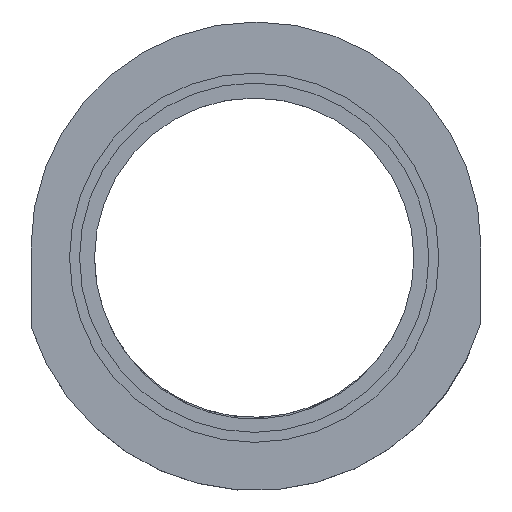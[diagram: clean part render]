
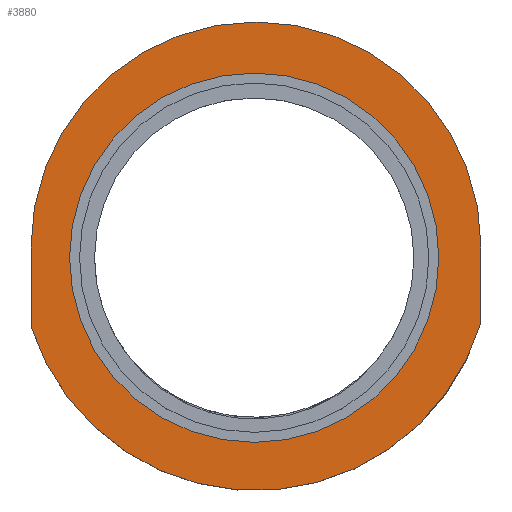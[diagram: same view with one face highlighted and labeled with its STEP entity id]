
A CAD part, top view. The second image highlights one B-rep face of the part: STEP entity #3880.
In plain terms, the highlighted planar face has unit normal (0, 0, 1).
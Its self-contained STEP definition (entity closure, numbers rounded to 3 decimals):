
#3212 = VERTEX_POINT('',#3213);
#3213 = CARTESIAN_POINT('',(17.64,-2.337,1.5));
#3220 = CYLINDRICAL_SURFACE('',#3221,18.5);
#3221 = AXIS2_PLACEMENT_3D('',#3222,#3223,#3224);
#3222 = CARTESIAN_POINT('',(-0.86,-2.337,1.2));
#3223 = DIRECTION('',(-0.,-0.,1.));
#3224 = DIRECTION('',(1.,0.,0.));
#3232 = CYLINDRICAL_SURFACE('',#3233,18.5);
#3233 = AXIS2_PLACEMENT_3D('',#3234,#3235,#3236);
#3234 = CARTESIAN_POINT('',(-0.86,-2.337,1.2));
#3235 = DIRECTION('',(-0.,-0.,1.));
#3236 = DIRECTION('',(1.,0.,0.));
#3244 = EDGE_CURVE('',#3245,#3212,#3247,.T.);
#3245 = VERTEX_POINT('',#3246);
#3246 = CARTESIAN_POINT('',(-19.36,-2.337,1.5));
#3247 = SURFACE_CURVE('',#3248,(#3253,#3260),.PCURVE_S1.);
#3248 = CIRCLE('',#3249,18.5);
#3249 = AXIS2_PLACEMENT_3D('',#3250,#3251,#3252);
#3250 = CARTESIAN_POINT('',(-0.86,-2.337,1.5));
#3251 = DIRECTION('',(0.,0.,1.));
#3252 = DIRECTION('',(1.,0.,-0.));
#3253 = PCURVE('',#3220,#3254);
#3254 = DEFINITIONAL_REPRESENTATION('',(#3255),#3259);
#3255 = LINE('',#3256,#3257);
#3256 = CARTESIAN_POINT('',(0.,0.3));
#3257 = VECTOR('',#3258,1.);
#3258 = DIRECTION('',(1.,0.));
#3259 = ( GEOMETRIC_REPRESENTATION_CONTEXT(2) 
PARAMETRIC_REPRESENTATION_CONTEXT() REPRESENTATION_CONTEXT('2D SPACE',''
  ) );
#3260 = PCURVE('',#3261,#3266);
#3261 = PLANE('',#3262);
#3262 = AXIS2_PLACEMENT_3D('',#3263,#3264,#3265);
#3263 = CARTESIAN_POINT('',(-0.68,-1.263,1.5));
#3264 = DIRECTION('',(-0.,0.,-1.));
#3265 = DIRECTION('',(-1.,0.,0.));
#3266 = DEFINITIONAL_REPRESENTATION('',(#3267),#3275);
#3267 = ( BOUNDED_CURVE() B_SPLINE_CURVE(2,(#3268,#3269,#3270,#3271,
#3272,#3273,#3274),.UNSPECIFIED.,.T.,.F.) B_SPLINE_CURVE_WITH_KNOTS((1,2
    ,2,2,2,1),(-2.094,0.,2.094,4.189,
6.283,8.378),.UNSPECIFIED.) CURVE() 
GEOMETRIC_REPRESENTATION_ITEM() RATIONAL_B_SPLINE_CURVE((1.,0.5,1.,0.5,
1.,0.5,1.)) REPRESENTATION_ITEM('') );
#3268 = CARTESIAN_POINT('',(-18.32,-1.075));
#3269 = CARTESIAN_POINT('',(-18.32,30.968));
#3270 = CARTESIAN_POINT('',(9.43,14.947));
#3271 = CARTESIAN_POINT('',(37.18,-1.075));
#3272 = CARTESIAN_POINT('',(9.43,-17.096));
#3273 = CARTESIAN_POINT('',(-18.32,-33.118));
#3274 = CARTESIAN_POINT('',(-18.32,-1.075));
#3275 = ( GEOMETRIC_REPRESENTATION_CONTEXT(2) 
PARAMETRIC_REPRESENTATION_CONTEXT() REPRESENTATION_CONTEXT('2D SPACE',''
  ) );
#3698 = PLANE('',#3699);
#3699 = AXIS2_PLACEMENT_3D('',#3700,#3701,#3702);
#3700 = CARTESIAN_POINT('',(-23.221,-1.263,1.5));
#3701 = DIRECTION('',(1.,0.,-0.));
#3702 = DIRECTION('',(-0.,0.,-1.));
#3723 = VERTEX_POINT('',#3724);
#3724 = CARTESIAN_POINT('',(-23.221,-9.246,1.5));
#3738 = CYLINDRICAL_SURFACE('',#3739,23.601);
#3739 = AXIS2_PLACEMENT_3D('',#3740,#3741,#3742);
#3740 = CARTESIAN_POINT('',(-0.739,-2.065,1.5));
#3741 = DIRECTION('',(-0.,-0.,-1.));
#3742 = DIRECTION('',(-1.,0.,0.));
#3750 = EDGE_CURVE('',#3751,#3723,#3753,.T.);
#3751 = VERTEX_POINT('',#3752);
#3752 = CARTESIAN_POINT('',(-23.221,-1.263,1.5));
#3753 = SURFACE_CURVE('',#3754,(#3758,#3765),.PCURVE_S1.);
#3754 = LINE('',#3755,#3756);
#3755 = CARTESIAN_POINT('',(-23.221,-1.263,1.5));
#3756 = VECTOR('',#3757,1.);
#3757 = DIRECTION('',(0.,-1.,0.));
#3758 = PCURVE('',#3698,#3759);
#3759 = DEFINITIONAL_REPRESENTATION('',(#3760),#3764);
#3760 = LINE('',#3761,#3762);
#3761 = CARTESIAN_POINT('',(0.,0.));
#3762 = VECTOR('',#3763,1.);
#3763 = DIRECTION('',(-0.,-1.));
#3764 = ( GEOMETRIC_REPRESENTATION_CONTEXT(2) 
PARAMETRIC_REPRESENTATION_CONTEXT() REPRESENTATION_CONTEXT('2D SPACE',''
  ) );
#3765 = PCURVE('',#3261,#3766);
#3766 = DEFINITIONAL_REPRESENTATION('',(#3767),#3771);
#3767 = LINE('',#3768,#3769);
#3768 = CARTESIAN_POINT('',(22.541,0.));
#3769 = VECTOR('',#3770,1.);
#3770 = DIRECTION('',(0.,-1.));
#3771 = ( GEOMETRIC_REPRESENTATION_CONTEXT(2) 
PARAMETRIC_REPRESENTATION_CONTEXT() REPRESENTATION_CONTEXT('2D SPACE',''
  ) );
#3787 = CYLINDRICAL_SURFACE('',#3788,22.541);
#3788 = AXIS2_PLACEMENT_3D('',#3789,#3790,#3791);
#3789 = CARTESIAN_POINT('',(-0.68,-1.263,1.5));
#3790 = DIRECTION('',(-0.,-0.,-1.));
#3791 = DIRECTION('',(-1.,0.,0.));
#3827 = VERTEX_POINT('',#3828);
#3828 = CARTESIAN_POINT('',(21.861,-8.862,1.5));
#3842 = PLANE('',#3843);
#3843 = AXIS2_PLACEMENT_3D('',#3844,#3845,#3846);
#3844 = CARTESIAN_POINT('',(21.861,-1.263,1.5));
#3845 = DIRECTION('',(-1.,0.,0.));
#3846 = DIRECTION('',(0.,0.,1.));
#3854 = EDGE_CURVE('',#3723,#3827,#3855,.T.);
#3855 = SURFACE_CURVE('',#3856,(#3861,#3868),.PCURVE_S1.);
#3856 = CIRCLE('',#3857,23.601);
#3857 = AXIS2_PLACEMENT_3D('',#3858,#3859,#3860);
#3858 = CARTESIAN_POINT('',(-0.739,-2.065,1.5));
#3859 = DIRECTION('',(0.,0.,1.));
#3860 = DIRECTION('',(1.,0.,-0.));
#3861 = PCURVE('',#3738,#3862);
#3862 = DEFINITIONAL_REPRESENTATION('',(#3863),#3867);
#3863 = LINE('',#3864,#3865);
#3864 = CARTESIAN_POINT('',(9.425,0.));
#3865 = VECTOR('',#3866,1.);
#3866 = DIRECTION('',(-1.,0.));
#3867 = ( GEOMETRIC_REPRESENTATION_CONTEXT(2) 
PARAMETRIC_REPRESENTATION_CONTEXT() REPRESENTATION_CONTEXT('2D SPACE',''
  ) );
#3868 = PCURVE('',#3261,#3869);
#3869 = DEFINITIONAL_REPRESENTATION('',(#3870),#3878);
#3870 = ( BOUNDED_CURVE() B_SPLINE_CURVE(2,(#3871,#3872,#3873,#3874,
#3875,#3876,#3877),.UNSPECIFIED.,.T.,.F.) B_SPLINE_CURVE_WITH_KNOTS((1,2
    ,2,2,2,1),(-2.094,0.,2.094,4.189,
6.283,8.378),.UNSPECIFIED.) CURVE() 
GEOMETRIC_REPRESENTATION_ITEM() RATIONAL_B_SPLINE_CURVE((1.,0.5,1.,0.5,
1.,0.5,1.)) REPRESENTATION_ITEM('') );
#3871 = CARTESIAN_POINT('',(-23.541,-0.802));
#3872 = CARTESIAN_POINT('',(-23.541,40.075));
#3873 = CARTESIAN_POINT('',(11.86,19.636));
#3874 = CARTESIAN_POINT('',(47.261,-0.802));
#3875 = CARTESIAN_POINT('',(11.86,-21.241));
#3876 = CARTESIAN_POINT('',(-23.541,-41.68));
#3877 = CARTESIAN_POINT('',(-23.541,-0.802));
#3878 = ( GEOMETRIC_REPRESENTATION_CONTEXT(2) 
PARAMETRIC_REPRESENTATION_CONTEXT() REPRESENTATION_CONTEXT('2D SPACE',''
  ) );
#3880 = ADVANCED_FACE('',(#3881,#3910),#3261,.F.);
#3881 = FACE_BOUND('',#3882,.T.);
#3882 = EDGE_LOOP('',(#3883,#3909));
#3883 = ORIENTED_EDGE('',*,*,#3884,.F.);
#3884 = EDGE_CURVE('',#3212,#3245,#3885,.T.);
#3885 = SURFACE_CURVE('',#3886,(#3891,#3902),.PCURVE_S1.);
#3886 = CIRCLE('',#3887,18.5);
#3887 = AXIS2_PLACEMENT_3D('',#3888,#3889,#3890);
#3888 = CARTESIAN_POINT('',(-0.86,-2.337,1.5));
#3889 = DIRECTION('',(0.,0.,1.));
#3890 = DIRECTION('',(1.,0.,-0.));
#3891 = PCURVE('',#3261,#3892);
#3892 = DEFINITIONAL_REPRESENTATION('',(#3893),#3901);
#3893 = ( BOUNDED_CURVE() B_SPLINE_CURVE(2,(#3894,#3895,#3896,#3897,
#3898,#3899,#3900),.UNSPECIFIED.,.T.,.F.) B_SPLINE_CURVE_WITH_KNOTS((1,2
    ,2,2,2,1),(-2.094,0.,2.094,4.189,
6.283,8.378),.UNSPECIFIED.) CURVE() 
GEOMETRIC_REPRESENTATION_ITEM() RATIONAL_B_SPLINE_CURVE((1.,0.5,1.,0.5,
1.,0.5,1.)) REPRESENTATION_ITEM('') );
#3894 = CARTESIAN_POINT('',(-18.32,-1.075));
#3895 = CARTESIAN_POINT('',(-18.32,30.968));
#3896 = CARTESIAN_POINT('',(9.43,14.947));
#3897 = CARTESIAN_POINT('',(37.18,-1.075));
#3898 = CARTESIAN_POINT('',(9.43,-17.096));
#3899 = CARTESIAN_POINT('',(-18.32,-33.118));
#3900 = CARTESIAN_POINT('',(-18.32,-1.075));
#3901 = ( GEOMETRIC_REPRESENTATION_CONTEXT(2) 
PARAMETRIC_REPRESENTATION_CONTEXT() REPRESENTATION_CONTEXT('2D SPACE',''
  ) );
#3902 = PCURVE('',#3232,#3903);
#3903 = DEFINITIONAL_REPRESENTATION('',(#3904),#3908);
#3904 = LINE('',#3905,#3906);
#3905 = CARTESIAN_POINT('',(0.,0.3));
#3906 = VECTOR('',#3907,1.);
#3907 = DIRECTION('',(1.,0.));
#3908 = ( GEOMETRIC_REPRESENTATION_CONTEXT(2) 
PARAMETRIC_REPRESENTATION_CONTEXT() REPRESENTATION_CONTEXT('2D SPACE',''
  ) );
#3909 = ORIENTED_EDGE('',*,*,#3244,.F.);
#3910 = FACE_BOUND('',#3911,.T.);
#3911 = EDGE_LOOP('',(#3912,#3940,#3941,#3942));
#3912 = ORIENTED_EDGE('',*,*,#3913,.T.);
#3913 = EDGE_CURVE('',#3914,#3751,#3916,.T.);
#3914 = VERTEX_POINT('',#3915);
#3915 = CARTESIAN_POINT('',(21.861,-1.263,1.5));
#3916 = SURFACE_CURVE('',#3917,(#3922,#3933),.PCURVE_S1.);
#3917 = CIRCLE('',#3918,22.541);
#3918 = AXIS2_PLACEMENT_3D('',#3919,#3920,#3921);
#3919 = CARTESIAN_POINT('',(-0.68,-1.263,1.5));
#3920 = DIRECTION('',(0.,0.,1.));
#3921 = DIRECTION('',(-1.,0.,0.));
#3922 = PCURVE('',#3261,#3923);
#3923 = DEFINITIONAL_REPRESENTATION('',(#3924),#3932);
#3924 = ( BOUNDED_CURVE() B_SPLINE_CURVE(2,(#3925,#3926,#3927,#3928,
#3929,#3930,#3931),.UNSPECIFIED.,.T.,.F.) B_SPLINE_CURVE_WITH_KNOTS((1,2
    ,2,2,2,1),(-2.094,0.,2.094,4.189,
6.283,8.378),.UNSPECIFIED.) CURVE() 
GEOMETRIC_REPRESENTATION_ITEM() RATIONAL_B_SPLINE_CURVE((1.,0.5,1.,0.5,
1.,0.5,1.)) REPRESENTATION_ITEM('') );
#3925 = CARTESIAN_POINT('',(22.541,0.));
#3926 = CARTESIAN_POINT('',(22.541,-39.042));
#3927 = CARTESIAN_POINT('',(-11.27,-19.521));
#3928 = CARTESIAN_POINT('',(-45.082,0.));
#3929 = CARTESIAN_POINT('',(-11.27,19.521));
#3930 = CARTESIAN_POINT('',(22.541,39.042));
#3931 = CARTESIAN_POINT('',(22.541,0.));
#3932 = ( GEOMETRIC_REPRESENTATION_CONTEXT(2) 
PARAMETRIC_REPRESENTATION_CONTEXT() REPRESENTATION_CONTEXT('2D SPACE',''
  ) );
#3933 = PCURVE('',#3787,#3934);
#3934 = DEFINITIONAL_REPRESENTATION('',(#3935),#3939);
#3935 = LINE('',#3936,#3937);
#3936 = CARTESIAN_POINT('',(6.283,0.));
#3937 = VECTOR('',#3938,1.);
#3938 = DIRECTION('',(-1.,0.));
#3939 = ( GEOMETRIC_REPRESENTATION_CONTEXT(2) 
PARAMETRIC_REPRESENTATION_CONTEXT() REPRESENTATION_CONTEXT('2D SPACE',''
  ) );
#3940 = ORIENTED_EDGE('',*,*,#3750,.T.);
#3941 = ORIENTED_EDGE('',*,*,#3854,.T.);
#3942 = ORIENTED_EDGE('',*,*,#3943,.T.);
#3943 = EDGE_CURVE('',#3827,#3914,#3944,.T.);
#3944 = SURFACE_CURVE('',#3945,(#3949,#3956),.PCURVE_S1.);
#3945 = LINE('',#3946,#3947);
#3946 = CARTESIAN_POINT('',(21.861,-1.263,1.5));
#3947 = VECTOR('',#3948,1.);
#3948 = DIRECTION('',(-0.,1.,-0.));
#3949 = PCURVE('',#3261,#3950);
#3950 = DEFINITIONAL_REPRESENTATION('',(#3951),#3955);
#3951 = LINE('',#3952,#3953);
#3952 = CARTESIAN_POINT('',(-22.541,0.));
#3953 = VECTOR('',#3954,1.);
#3954 = DIRECTION('',(0.,1.));
#3955 = ( GEOMETRIC_REPRESENTATION_CONTEXT(2) 
PARAMETRIC_REPRESENTATION_CONTEXT() REPRESENTATION_CONTEXT('2D SPACE',''
  ) );
#3956 = PCURVE('',#3842,#3957);
#3957 = DEFINITIONAL_REPRESENTATION('',(#3958),#3962);
#3958 = LINE('',#3959,#3960);
#3959 = CARTESIAN_POINT('',(0.,0.));
#3960 = VECTOR('',#3961,1.);
#3961 = DIRECTION('',(0.,1.));
#3962 = ( GEOMETRIC_REPRESENTATION_CONTEXT(2) 
PARAMETRIC_REPRESENTATION_CONTEXT() REPRESENTATION_CONTEXT('2D SPACE',''
  ) );
